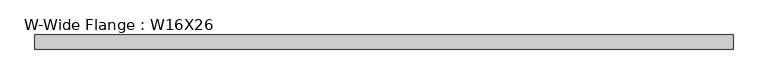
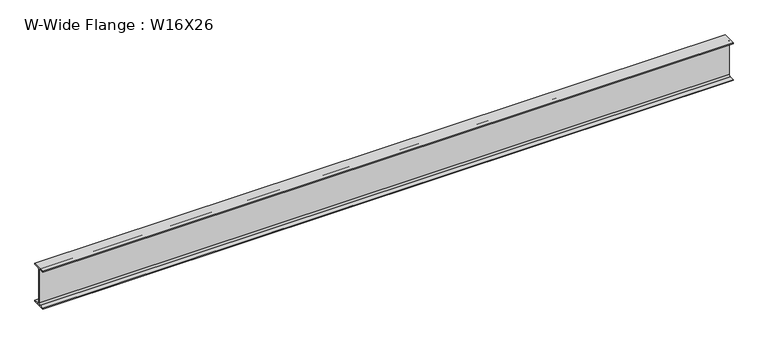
"""IFC4 building model written with IfcOpenShell, lengths in millimetres: beam geometry, W-Wide Flange : W16X26."""

from ifc_helpers import new_model, si_unit, point, frame, frame_2d, origin, place, context, project, spatial, polyline, circle_curve, trimmed, segment, composite_curve, outline, extrude, source, transform, mapped, element, save


def w_wide_flange_w16x26_349916ea(model_context):
    return source(origin(), model_context, "Body", "SweptSolid", [
        extrude(outline(composite_curve([segment(polyline([(69.85, -190.5496094), (69.85, -199.2808594), (-69.85, -199.2808594), (-69.85, -190.5496094), (-21.43125, -190.5496094)]), True, "CONTINUOUS"), segment(trimmed(circle_curve(frame_2d((-21.43125, -172.2933594)), 18.25625), [point((-21.43125, -190.5496094))], [point((-3.175, -172.2933594))], True, "CARTESIAN"), True, "CONTINUOUS"), segment(polyline([(-3.175, -172.2933594), (-3.175, 172.2933594)]), True, "CONTINUOUS"), segment(trimmed(circle_curve(frame_2d((-21.43125, 172.2933594)), 18.25625), [point((-3.175, 172.2933594))], [point((-21.43125, 190.5496094))], True, "CARTESIAN"), True, "CONTINUOUS"), segment(polyline([(-21.43125, 190.5496094), (-69.85, 190.5496094), (-69.85, 199.2808594), (69.85, 199.2808594), (69.85, 190.5496094), (21.43125, 190.5496094)]), True, "CONTINUOUS"), segment(trimmed(circle_curve(frame_2d((21.43125, 172.2933594)), 18.25625), [point((21.43125, 190.5496094))], [point((3.175, 172.2933594))], True, "CARTESIAN"), True, "CONTINUOUS"), segment(polyline([(3.175, 172.2933594), (3.175, -172.2933594)]), True, "CONTINUOUS"), segment(trimmed(circle_curve(frame_2d((21.43125, -172.2933594)), 18.25625), [point((3.175, -172.2933594))], [point((21.43125, -190.5496094))], True, "CARTESIAN"), True, "CONTINUOUS"), segment(polyline([(21.43125, -190.5496094), (69.85, -190.5496094)]), True, "CONTINUOUS")], self_intersect=False)), frame((-3431.9104167, 0.0, 0.0), z_axis=(1.0, 0.0, 0.0), x_axis=(0.0, 1.0, 0.0)), (0.0, 0.0, 1.0), 6920.9708333),
    ])


if __name__ == "__main__":
    model = new_model("IFC4")
    model_context = context("Model", 3, world=origin())
    ifc_project = project(units=[si_unit("LENGTHUNIT", "METRE", prefix="MILLI")], contexts=[model_context])
    site = spatial("IfcSite", under=ifc_project)
    building = spatial("IfcBuilding", under=site)
    placement = place(None, origin())
    w_wide_flange_w16x26_shape = w_wide_flange_w16x26_349916ea(model_context)
    element("IfcBeam", 1, ObjectType="W-Wide Flange : W16X26", at=placement, inside=building, context=model_context, shape_type="MappedRepresentation", body=[
        mapped(w_wide_flange_w16x26_shape, transform((0.0, 0.0, 0.0), x_axis=(1.0, 0.0, 0.0), y_axis=(0.0, 1.0, 0.0), z_axis=(0.0, 0.0, 1.0))),
    ])
    save(model, "model.ifc")
